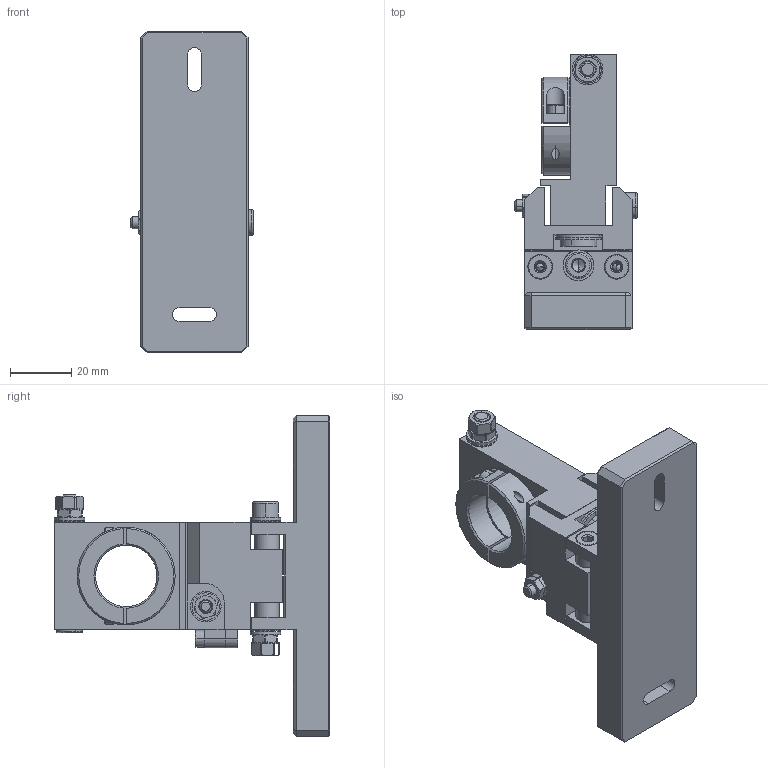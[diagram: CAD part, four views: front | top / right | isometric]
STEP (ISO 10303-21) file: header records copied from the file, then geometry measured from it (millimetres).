
FILE_DESCRIPTION (( 'STEP AP203' ), '1' );
FILE_NAME ('Äußere Flächen 0012725 B5-HD-F.STEP', '2019-03-06T08:25:23', ( '' ), ( '' ), 'SwSTEP 2.0', 'SolidWorks 2016', '' );
FILE_SCHEMA (( 'CONFIG_CONTROL_DESIGN' ));
Length unit declared in the file: millimetre
Products named in the file (1): Äußere Flächen 0012725 B5-HD-F
Bounding box: 40 x 90 x 105 mm (x, y, z)
Surface area: 36182.2 mm2 (no closed solid volume)
Topology: 0 solids, 44 shells, 513 faces, 1424 edges, 927 vertices
Faces by surface type: plane 240, cone 146, cylinder 115, bspline 12
Entity records: 17191 total; most frequent: CARTESIAN_POINT 4237, DIRECTION 2756, ORIENTED_EDGE 2433, EDGE_CURVE 1408, AXIS2_PLACEMENT_3D 1042, VERTEX_POINT 927, LINE 672, VECTOR 672
